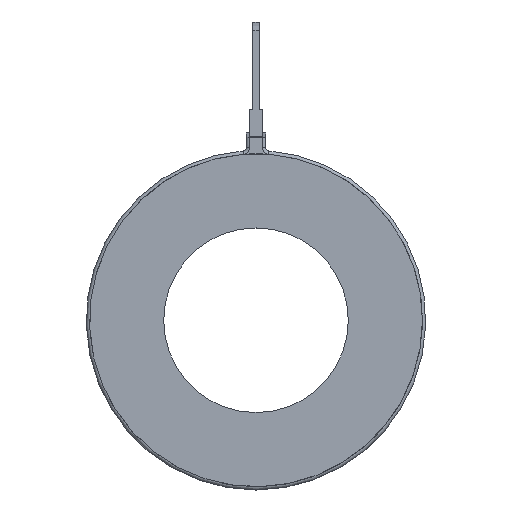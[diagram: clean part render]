
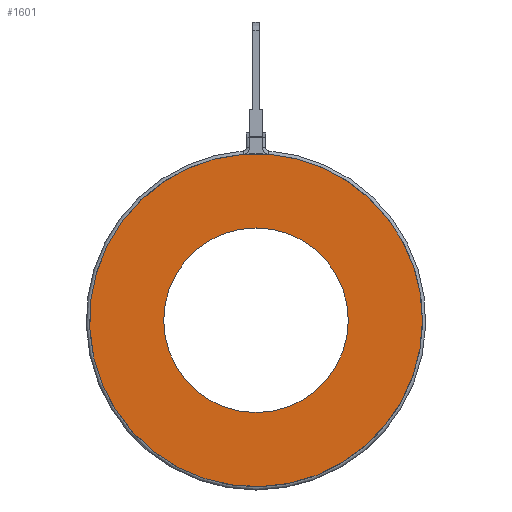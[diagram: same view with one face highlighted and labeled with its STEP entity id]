
A CAD part, front view. The second image highlights one B-rep face of the part: STEP entity #1601.
In plain terms, the highlighted planar face has unit normal (0, -1, 0).
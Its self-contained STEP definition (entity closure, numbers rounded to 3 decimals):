
#51=FACE_BOUND($,#291,.T.);
#179=FACE_OUTER_BOUND($,#290,.T.);
#290=EDGE_LOOP($,(#1376));
#291=EDGE_LOOP($,(#1377));
#600=CIRCLE($,#1765,25.25);
#605=CIRCLE($,#1777,14.);
#730=VERTEX_POINT($,#2731);
#741=VERTEX_POINT($,#2764);
#938=EDGE_CURVE($,#730,#730,#600,.T.);
#953=EDGE_CURVE($,#741,#741,#605,.T.);
#1376=ORIENTED_EDGE($,*,*,#938,.T.);
#1377=ORIENTED_EDGE($,*,*,#953,.T.);
#1422=PLANE($,#1779);
#1601=ADVANCED_FACE($,(#179,#51),#1422,.T.);
#1765=AXIS2_PLACEMENT_3D($,#2732,#2206,#2207);
#1777=AXIS2_PLACEMENT_3D($,#2765,#2240,#2241);
#1779=AXIS2_PLACEMENT_3D($,#2767,#2244,#2245);
#2206=DIRECTION('center_axis',(0.,-1.,0.));
#2207=DIRECTION('ref_axis',(-1.,0.,0.));
#2240=DIRECTION('center_axis',(0.,1.,0.));
#2241=DIRECTION('ref_axis',(1.,0.,0.));
#2244=DIRECTION('center_axis',(0.,-1.,0.));
#2245=DIRECTION('ref_axis',(0.,0.,-1.));
#2731=CARTESIAN_POINT('',(25.25,0.,0.));
#2732=CARTESIAN_POINT('Origin',(0.,0.,0.));
#2764=CARTESIAN_POINT('',(-14.,0.,0.));
#2765=CARTESIAN_POINT('Origin',(0.,0.,0.));
#2767=CARTESIAN_POINT('Origin',(0.,0.,0.));
